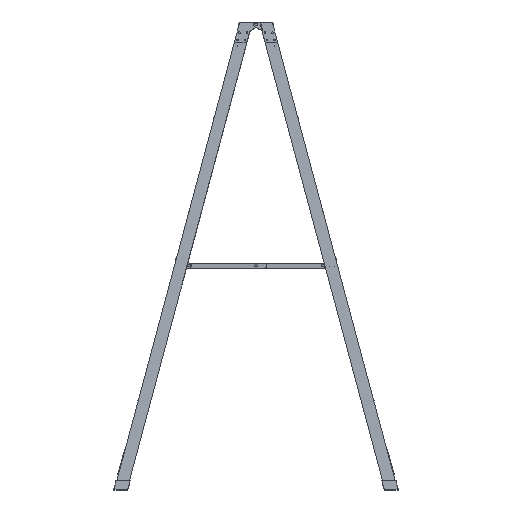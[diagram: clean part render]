
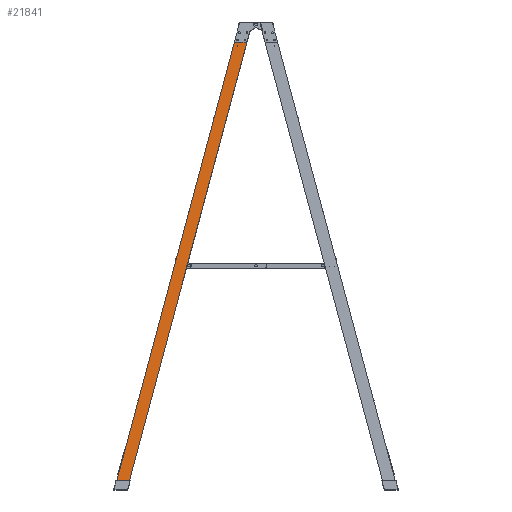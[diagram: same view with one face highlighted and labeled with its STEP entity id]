
A CAD part, top view. The second image highlights one B-rep face of the part: STEP entity #21841.
In plain terms, the highlighted planar face has unit normal (0, 0.07, 0.998).
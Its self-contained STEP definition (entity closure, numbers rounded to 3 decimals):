
#378=CIRCLE($,#23272,20.);
#379=CIRCLE($,#23273,5.);
#380=CIRCLE($,#23274,5.);
#381=CIRCLE($,#23275,5.);
#1869=FACE_OUTER_BOUND($,#3063,.T.);
#3063=EDGE_LOOP($,(#16878,#16879,#16880,#16881,#16882,#16883,#16884,#16885,
#16886,#16887,#16888,#16889,#16890));
#5349=LINE($,#33350,#7767);
#5350=LINE($,#33352,#7768);
#5351=LINE($,#33356,#7769);
#5352=LINE($,#33360,#7770);
#5353=LINE($,#33364,#7771);
#5354=LINE($,#33368,#7772);
#5355=LINE($,#33370,#7773);
#5356=LINE($,#33372,#7774);
#5357=LINE($,#33373,#7775);
#7767=VECTOR($,#26976,77.647);
#7768=VECTOR($,#26977,2858.804);
#7769=VECTOR($,#26980,61.441);
#7770=VECTOR($,#26983,66.261);
#7771=VECTOR($,#26986,119.04);
#7772=VECTOR($,#26989,73.291);
#7773=VECTOR($,#26990,0.518);
#7774=VECTOR($,#26991,77.647);
#7775=VECTOR($,#26992,2919.123);
#9895=VERTEX_POINT($,#33348);
#9896=VERTEX_POINT($,#33349);
#9897=VERTEX_POINT($,#33351);
#9898=VERTEX_POINT($,#33353);
#9899=VERTEX_POINT($,#33355);
#9900=VERTEX_POINT($,#33357);
#9901=VERTEX_POINT($,#33359);
#9902=VERTEX_POINT($,#33361);
#9903=VERTEX_POINT($,#33363);
#9904=VERTEX_POINT($,#33365);
#9905=VERTEX_POINT($,#33367);
#9906=VERTEX_POINT($,#33369);
#9907=VERTEX_POINT($,#33371);
#12423=EDGE_CURVE($,#9895,#9896,#5349,.T.);
#12424=EDGE_CURVE($,#9896,#9897,#5350,.T.);
#12425=EDGE_CURVE($,#9897,#9898,#378,.T.);
#12426=EDGE_CURVE($,#9898,#9899,#5351,.T.);
#12427=EDGE_CURVE($,#9899,#9900,#379,.T.);
#12428=EDGE_CURVE($,#9900,#9901,#5352,.T.);
#12429=EDGE_CURVE($,#9901,#9902,#380,.T.);
#12430=EDGE_CURVE($,#9902,#9903,#5353,.T.);
#12431=EDGE_CURVE($,#9903,#9904,#381,.T.);
#12432=EDGE_CURVE($,#9904,#9905,#5354,.T.);
#12433=EDGE_CURVE($,#9905,#9906,#5355,.T.);
#12434=EDGE_CURVE($,#9907,#9906,#5356,.T.);
#12435=EDGE_CURVE($,#9895,#9907,#5357,.T.);
#16878=ORIENTED_EDGE($,*,*,#12423,.T.);
#16879=ORIENTED_EDGE($,*,*,#12424,.T.);
#16880=ORIENTED_EDGE($,*,*,#12425,.T.);
#16881=ORIENTED_EDGE($,*,*,#12426,.T.);
#16882=ORIENTED_EDGE($,*,*,#12427,.T.);
#16883=ORIENTED_EDGE($,*,*,#12428,.T.);
#16884=ORIENTED_EDGE($,*,*,#12429,.T.);
#16885=ORIENTED_EDGE($,*,*,#12430,.T.);
#16886=ORIENTED_EDGE($,*,*,#12431,.T.);
#16887=ORIENTED_EDGE($,*,*,#12432,.T.);
#16888=ORIENTED_EDGE($,*,*,#12433,.T.);
#16889=ORIENTED_EDGE($,*,*,#12434,.F.);
#16890=ORIENTED_EDGE($,*,*,#12435,.F.);
#20877=PLANE($,#23271);
#21841=ADVANCED_FACE($,(#1869),#20877,.T.);
#23271=AXIS2_PLACEMENT_3D($,#33347,#26974,#26975);
#23272=AXIS2_PLACEMENT_3D($,#33354,#26978,#26979);
#23273=AXIS2_PLACEMENT_3D($,#33358,#26981,#26982);
#23274=AXIS2_PLACEMENT_3D($,#33362,#26984,#26985);
#23275=AXIS2_PLACEMENT_3D($,#33366,#26987,#26988);
#26974=DIRECTION('center_axis',(0.,0.07,0.998));
#26975=DIRECTION('ref_axis',(1.,0.,0.));
#26976=DIRECTION($,(1.,0.,0.));
#26977=DIRECTION($,(0.258,0.964,-0.067));
#26978=DIRECTION('center_axis',(0.,0.07,0.998));
#26979=DIRECTION('ref_axis',(0.5,-0.864,0.06));
#26980=DIRECTION($,(-0.258,-0.964,0.067));
#26981=DIRECTION('center_axis',(0.,-0.07,-0.998));
#26982=DIRECTION('ref_axis',(0.,-0.998,0.07));
#26983=DIRECTION($,(-1.,0.,0.));
#26984=DIRECTION('center_axis',(0.,-0.07,-0.998));
#26985=DIRECTION('ref_axis',(-0.966,0.258,-0.018));
#26986=DIRECTION($,(0.258,0.964,-0.067));
#26987=DIRECTION('center_axis',(0.,-0.07,-0.998));
#26988=DIRECTION('ref_axis',(0.,0.998,-0.07));
#26989=DIRECTION($,(1.,0.,0.));
#26990=DIRECTION($,(0.258,0.964,-0.067));
#26991=DIRECTION($,(1.,0.,0.));
#26992=DIRECTION($,(0.258,0.964,-0.067));
#33347=CARTESIAN_POINT('Origin',(-869.5,0.,351.));
#33348=CARTESIAN_POINT('',(-854.002,57.822,346.952));
#33349=CARTESIAN_POINT('',(-776.355,57.822,346.952));
#33350=CARTESIAN_POINT($,(-842.339,57.822,346.952));
#33351=CARTESIAN_POINT('',(-37.933,2812.871,154.07));
#33352=CARTESIAN_POINT($,(-791.853,0.,351.));
#33353=CARTESIAN_POINT('',(-39.564,2808.717,154.36));
#33354=CARTESIAN_POINT('Origin',(-20.243,2803.564,154.721));
#33355=CARTESIAN_POINT('',(-55.434,2749.506,158.506));
#33356=CARTESIAN_POINT($,(-426.475,1365.153,255.425));
#33357=CARTESIAN_POINT('',(-60.264,2745.806,158.765));
#33358=CARTESIAN_POINT('Origin',(-60.264,2750.794,158.416));
#33359=CARTESIAN_POINT('',(-126.525,2745.806,158.765));
#33360=CARTESIAN_POINT($,(-498.012,2745.806,158.765));
#33361=CARTESIAN_POINT('',(-131.355,2752.083,158.325));
#33362=CARTESIAN_POINT('Origin',(-126.525,2750.794,158.416));
#33363=CARTESIAN_POINT('',(-100.608,2866.802,150.294));
#33364=CARTESIAN_POINT($,(-484.812,1433.336,250.651));
#33365=CARTESIAN_POINT('',(-95.777,2870.501,150.035));
#33366=CARTESIAN_POINT('Origin',(-95.777,2865.513,150.384));
#33367=CARTESIAN_POINT('',(-22.486,2870.501,150.035));
#33368=CARTESIAN_POINT($,(-434.75,2870.501,150.035));
#33369=CARTESIAN_POINT('',(-22.353,2871.,150.));
#33370=CARTESIAN_POINT($,(-791.853,0.,351.));
#33371=CARTESIAN_POINT('',(-100.,2871.,150.));
#33372=CARTESIAN_POINT($,(-22.353,2871.,150.));
#33373=CARTESIAN_POINT($,(-869.5,0.,351.));
